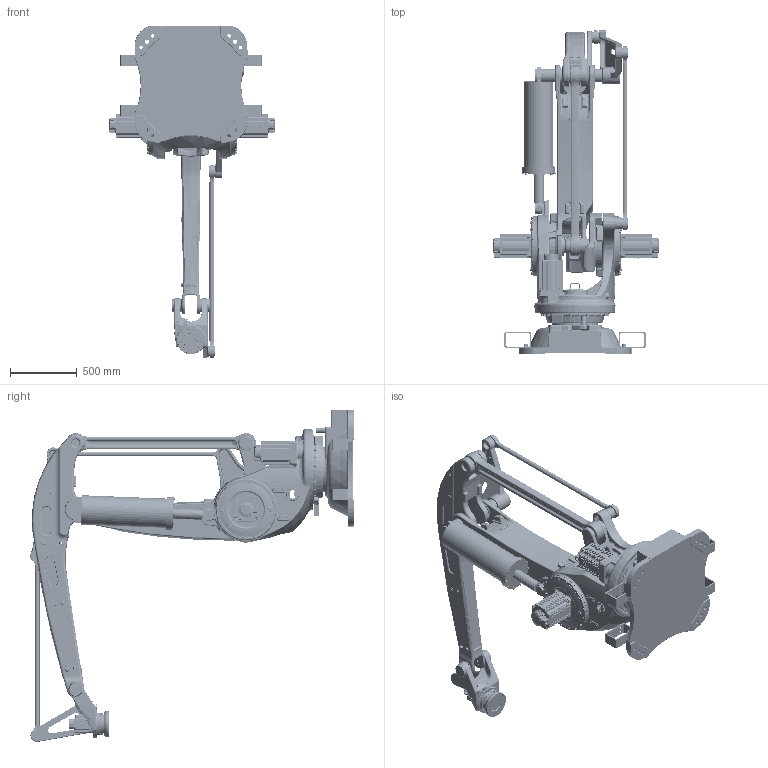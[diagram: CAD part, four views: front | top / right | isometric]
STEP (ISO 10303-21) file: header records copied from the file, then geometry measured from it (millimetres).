
FILE_DESCRIPTION (( 'STEP AP203' ), '1' );
FILE_NAME ('AT180R3150A Ä£ÐÍ.STEP', '2023-08-21T03:00:21', ( '' ), ( '' ), 'SwSTEP 2.0', 'SolidWorks 2021', '' );
FILE_SCHEMA (( 'CONFIG_CONTROL_DESIGN' ));
Length unit declared in the file: millimetre
Products named in the file (1): AT180R3150A 耀倰
Bounding box: 1247 x 2429.95 x 2492.72 mm (x, y, z)
Volume: 422817297.2 mm3; surface area: 14615754.5 mm2
Topology: 11 solids, 489 shells, 18352 faces, 43822 edges, 26512 vertices
Faces by surface type: plane 6519, cylinder 5257, cone 3325, bspline 1940, torus 1189, sphere 122
Entity records: 653047 total; most frequent: CARTESIAN_POINT 237364, DIRECTION 88593, ORIENTED_EDGE 85830, EDGE_CURVE 42915, AXIS2_PLACEMENT_3D 34753, VERTEX_POINT 26500, EDGE_LOOP 19941, VECTOR 19087
